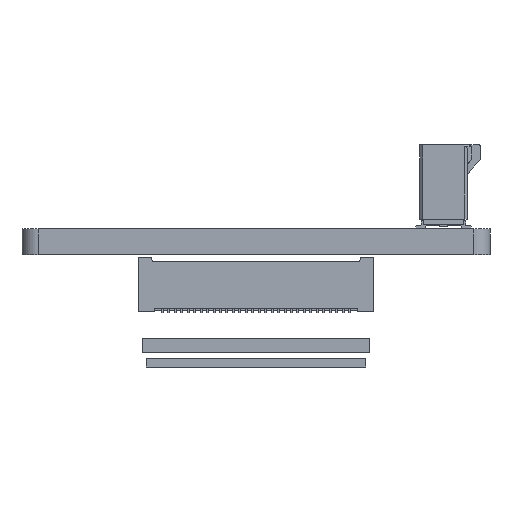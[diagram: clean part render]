
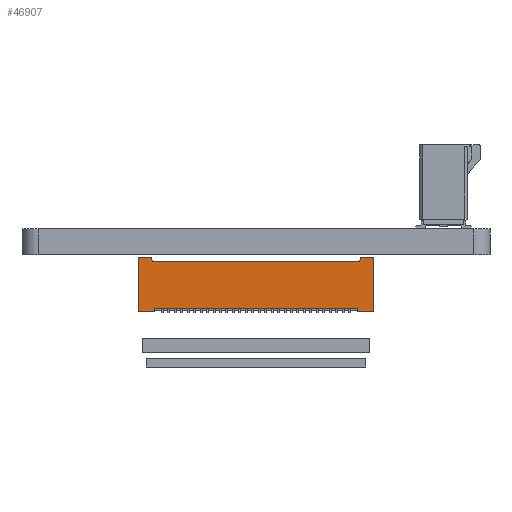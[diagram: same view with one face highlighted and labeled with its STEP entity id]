
A CAD part, left-side view. The second image highlights one B-rep face of the part: STEP entity #46907.
In plain terms, the highlighted planar face has unit normal (-1, 0, 0).
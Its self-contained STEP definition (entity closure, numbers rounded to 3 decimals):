
#4280=DIRECTION('',(0.,0.,-1.));
#4281=VECTOR('',#4280,3.35);
#4282=CARTESIAN_POINT('',(-13.64,7.3,12.));
#4283=LINE('',#4282,#4281);
#4284=DIRECTION('',(0.,1.,0.));
#4285=VECTOR('',#4284,0.8);
#4286=CARTESIAN_POINT('',(-13.64,6.5,12.));
#4287=LINE('',#4286,#4285);
#4288=DIRECTION('',(0.,0.371,0.928));
#4289=VECTOR('',#4288,0.269);
#4290=CARTESIAN_POINT('',(-13.64,6.4,11.75));
#4291=LINE('',#4290,#4289);
#4292=DIRECTION('',(0.,0.371,-0.928));
#4293=VECTOR('',#4292,0.269);
#4294=CARTESIAN_POINT('',(-13.64,-6.5,12.));
#4295=LINE('',#4294,#4293);
#4296=DIRECTION('',(0.,-1.,0.));
#4297=VECTOR('',#4296,12.6);
#4298=CARTESIAN_POINT('',(-13.64,6.3,8.85));
#4299=LINE('',#4298,#4297);
#4464=DIRECTION('',(0.,0.,1.));
#4465=VECTOR('',#4464,0.2);
#4466=CARTESIAN_POINT('',(-13.64,-6.3,8.65));
#4467=LINE('',#4466,#4465);
#4472=DIRECTION('',(0.,-1.,0.));
#4473=VECTOR('',#4472,1.);
#4474=CARTESIAN_POINT('',(-13.64,-6.3,8.65));
#4475=LINE('',#4474,#4473);
#4496=DIRECTION('',(0.,0.,1.));
#4497=VECTOR('',#4496,3.35);
#4498=CARTESIAN_POINT('',(-13.64,-7.3,8.65));
#4499=LINE('',#4498,#4497);
#4512=DIRECTION('',(0.,-1.,0.));
#4513=VECTOR('',#4512,0.8);
#4514=CARTESIAN_POINT('',(-13.64,-6.5,12.));
#4515=LINE('',#4514,#4513);
#4532=DIRECTION('',(0.,-1.,0.));
#4533=VECTOR('',#4532,12.8);
#4534=CARTESIAN_POINT('',(-13.64,6.4,11.75));
#4535=LINE('',#4534,#4533);
#9140=DIRECTION('',(0.,0.,1.));
#9141=VECTOR('',#9140,0.2);
#9142=CARTESIAN_POINT('',(-13.64,6.3,8.65));
#9143=LINE('',#9142,#9141);
#9180=DIRECTION('',(0.,-1.,0.));
#9181=VECTOR('',#9180,1.);
#9182=CARTESIAN_POINT('',(-13.64,7.3,8.65));
#9183=LINE('',#9182,#9181);
#33017=CARTESIAN_POINT('',(-13.64,6.5,12.));
#33018=VERTEX_POINT('',#33017);
#33019=CARTESIAN_POINT('',(-13.64,7.3,12.));
#33020=VERTEX_POINT('',#33019);
#33029=CARTESIAN_POINT('',(-13.64,7.3,8.65));
#33030=VERTEX_POINT('',#33029);
#33031=CARTESIAN_POINT('',(-13.64,6.3,8.85));
#33032=CARTESIAN_POINT('',(-13.64,-6.3,8.85));
#33033=VERTEX_POINT('',#33031);
#33034=VERTEX_POINT('',#33032);
#33035=CARTESIAN_POINT('',(-13.64,6.3,8.65));
#33036=VERTEX_POINT('',#33035);
#33037=CARTESIAN_POINT('',(-13.64,6.4,11.75));
#33038=VERTEX_POINT('',#33037);
#33039=CARTESIAN_POINT('',(-13.64,-6.4,11.75));
#33040=VERTEX_POINT('',#33039);
#33041=CARTESIAN_POINT('',(-13.64,-6.5,12.));
#33042=VERTEX_POINT('',#33041);
#33043=CARTESIAN_POINT('',(-13.64,-7.3,12.));
#33044=VERTEX_POINT('',#33043);
#33045=CARTESIAN_POINT('',(-13.64,-7.3,8.65));
#33046=VERTEX_POINT('',#33045);
#33047=CARTESIAN_POINT('',(-13.64,-6.3,8.65));
#33048=VERTEX_POINT('',#33047);
#46878=CARTESIAN_POINT('',(-13.64,0.,10.325));
#46879=DIRECTION('',(1.,0.,0.));
#46880=DIRECTION('',(0.,0.,-1.));
#46881=AXIS2_PLACEMENT_3D('',#46878,#46879,#46880);
#46882=PLANE('',#46881);
#46884=ORIENTED_EDGE('',*,*,#46883,.F.);
#46886=ORIENTED_EDGE('',*,*,#46885,.F.);
#46888=ORIENTED_EDGE('',*,*,#46887,.F.);
#46889=ORIENTED_EDGE('',*,*,#46871,.F.);
#46890=ORIENTED_EDGE('',*,*,#46826,.F.);
#46892=ORIENTED_EDGE('',*,*,#46891,.F.);
#46894=ORIENTED_EDGE('',*,*,#46893,.T.);
#46896=ORIENTED_EDGE('',*,*,#46895,.F.);
#46898=ORIENTED_EDGE('',*,*,#46897,.T.);
#46900=ORIENTED_EDGE('',*,*,#46899,.F.);
#46902=ORIENTED_EDGE('',*,*,#46901,.F.);
#46904=ORIENTED_EDGE('',*,*,#46903,.T.);
#46905=EDGE_LOOP('',(#46884,#46886,#46888,#46889,#46890,#46892,#46894,#46896,
#46898,#46900,#46902,#46904));
#46906=FACE_OUTER_BOUND('',#46905,.F.);
#46907=ADVANCED_FACE('',(#46906),#46882,.F.);
#46826=EDGE_CURVE('',#33018,#33020,#4287,.T.);
#46871=EDGE_CURVE('',#33020,#33030,#4283,.T.);
#46883=EDGE_CURVE('',#33033,#33034,#4299,.T.);
#46885=EDGE_CURVE('',#33036,#33033,#9143,.T.);
#46887=EDGE_CURVE('',#33030,#33036,#9183,.T.);
#46891=EDGE_CURVE('',#33038,#33018,#4291,.T.);
#46893=EDGE_CURVE('',#33038,#33040,#4535,.T.);
#46895=EDGE_CURVE('',#33042,#33040,#4295,.T.);
#46897=EDGE_CURVE('',#33042,#33044,#4515,.T.);
#46899=EDGE_CURVE('',#33046,#33044,#4499,.T.);
#46901=EDGE_CURVE('',#33048,#33046,#4475,.T.);
#46903=EDGE_CURVE('',#33048,#33034,#4467,.T.);
